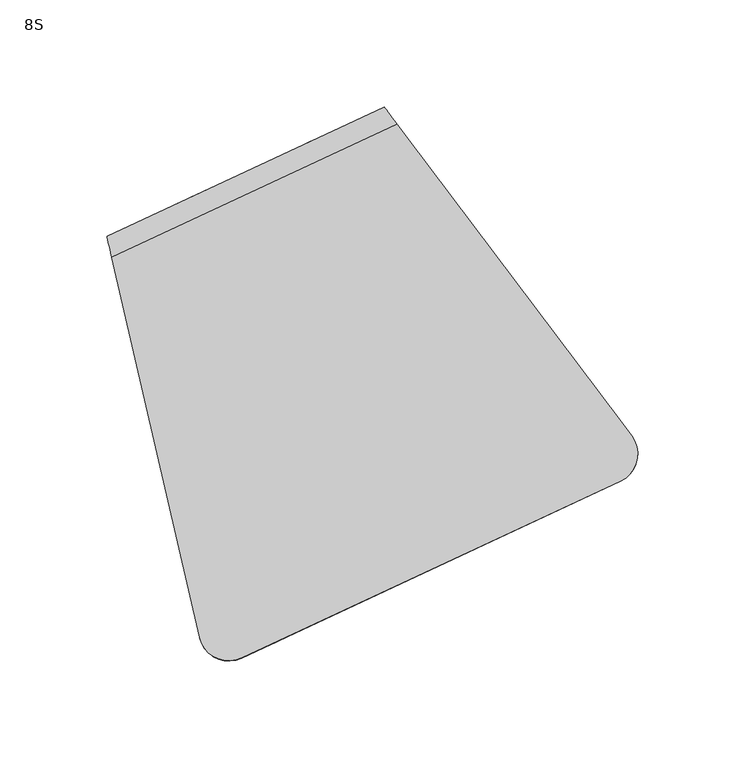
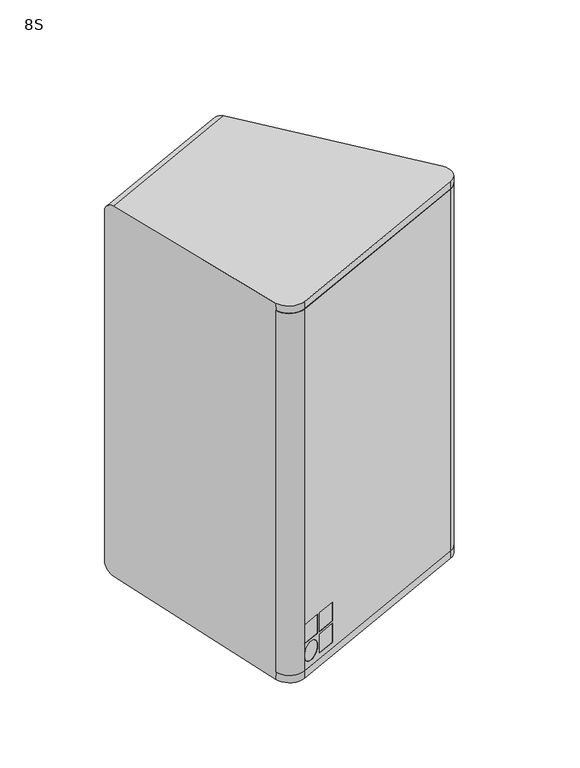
"""IFC4 building model written with IfcOpenShell, lengths in millimetres: proxy geometry, d&b xS-Series 8S Point Source : 8S."""

from ifc_helpers import new_model, si_unit, point, frame, frame_2d, origin, place, context, project, spatial, polyline, circle_curve, ellipse_curve, trimmed, segment, composite_curve, outline, extrude, source, transform, mapped, element, save
from ifc_brep_helpers import plane_surface, cylinder_surface, revolved_surface, advanced_brep


def proxy_8s_2740bf52(model_context):
    return source(origin(), model_context, "Body", "SolidModel", [
        extrude(outline(composite_curve([segment(polyline([(-60.1149016, -122.4693124), (132.4466068, -32.6764064)]), True, "CONTINUOUS"), segment(trimmed(circle_curve(frame_2d((125.9583549, -38.9136003)), 9.0), [point((132.4466068, -32.6764064))], [point((129.7619193, -47.0703704))], False, "CARTESIAN"), True, "CONTINUOUS"), segment(polyline([(129.7619193, -47.0703704), (-47.2598462, -129.6169753)]), True, "CONTINUOUS"), segment(trimmed(circle_curve(frame_2d((-51.0979663, -121.3861003)), 9.0817658), [point((-47.2598462, -129.6169753))], [point((-60.1149016, -122.4693124))], False, "CARTESIAN"), True, "CONTINUOUS")], self_intersect=False)), frame((0.0, 0.0, -169.0), z_axis=(0.0, 0.0, 1.0), x_axis=(1.0, 0.0, 0.0)), (0.0, 0.0, 1.0), 338.0),
        advanced_brep(
        [(-29.0144763, -126.6259092, -126.5), (-31.1275676, -122.0943703, -126.5), (-31.1275676, -122.0943703, -144.0), (-29.0144763, -126.6259092, -144.0), (-46.9879539, -129.4901898, -144.0), (-44.8748626, -134.0217288, -144.0), (-46.9879539, -129.4901898, -126.5), (-44.8748626, -134.0217288, -126.5), (-10.8883206, -118.173544, -126.5), (-13.0014119, -113.642005, -126.5), (-13.0014119, -113.642005, -144.0), (-10.8883206, -118.173544, -144.0), (-28.8617982, -121.0378246, -144.0), (-26.7487069, -125.5693635, -144.0), (-28.8617982, -121.0378246, -126.5), (-26.7487069, -125.5693635, -126.5), (-10.8883206, -118.173544, -146.5), (-13.0014119, -113.642005, -146.5), (-13.0014119, -113.642005, -164.0), (-10.8883206, -118.173544, -164.0), (-28.8617982, -121.0378246, -164.0), (-26.7487069, -125.5693635, -164.0), (-28.8617982, -121.0378246, -146.5), (-26.7487069, -125.5693635, -146.5), (-36.9446695, -130.323819, -164.0), (-39.0577608, -125.7922801, -164.0), (-39.0577608, -125.7922801, -146.5), (-36.9446695, -130.323819, -146.5), (132.4466068, -32.6764064, 169.0), (129.7619193, -47.0703704, 169.0), (-47.2598462, -129.6169753, 169.0), (-60.1149016, -122.4693124, 169.0), (-64.7957686, -124.6520366, 169.0), (-45.1467549, -134.1485143, 169.0), (131.8750106, -51.6019093, 169.0), (137.1392521, -30.48819, 169.0), (132.4466068, -32.6764064, -169.0), (137.1392521, -30.48819, -169.0), (131.8750106, -51.6019093, -169.0), (-45.1467549, -134.1485143, -169.0), (-64.7957686, -124.6520366, -169.0), (-60.1149016, -122.4693124, -169.0), (-47.2598462, -129.6169753, -169.0), (129.7619193, -47.0703704, -169.0)],
        [
            (0, 1),
            (1, 2),
            (2, 3),
            (3, 0),
            (2, 4),
            (4, 5),
            (5, 3),
            (4, 6),
            (6, 7),
            (7, 5),
            (0, 7),
            (6, 1),
            (8, 9),
            (9, 10),
            (10, 11),
            (11, 8),
            (10, 12),
            (12, 13),
            (13, 11),
            (12, 14),
            (14, 15),
            (15, 13),
            (8, 15),
            (14, 9),
            (16, 17),
            (17, 18),
            (18, 19),
            (19, 16),
            (18, 20),
            (20, 21),
            (21, 19),
            (20, 22),
            (22, 23),
            (23, 21),
            (16, 23),
            (22, 17),
            (24, 25),
            (25, 26, circle_curve(frame((-39.0577608, -125.7922801, -155.25), z_axis=(-0.4226182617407, 0.9063077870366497, 0.0), x_axis=(0.0, 0.0, 1.0)), 8.75)),
            (26, 27),
            (27, 24, circle_curve(frame((-36.9446695, -130.323819, -155.25), z_axis=(0.4226182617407, -0.9063077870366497, 0.0), x_axis=(0.0, 0.0, 1.0)), 8.75)),
            (24, 27, circle_curve(frame((-36.9446695, -130.323819, -155.25), z_axis=(0.4226182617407, -0.9063077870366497, 0.0), x_axis=(0.0, 0.0, 1.0)), 8.75)),
            (26, 25, circle_curve(frame((-39.0577608, -125.7922801, -155.25), z_axis=(-0.4226182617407, 0.9063077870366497, 0.0), x_axis=(0.0, 0.0, 1.0)), 8.75)),
            (28, 29, circle_curve(frame((125.9583549, -38.9136003, 169.0), z_axis=(0.0, 0.0, -1.0), x_axis=(0.4226182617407, -0.9063077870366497, 0.0)), 9.0)),
            (29, 30),
            (30, 31, circle_curve(frame((-51.0979663, -121.3861003, 169.0), z_axis=(0.0, 0.0, -1.0), x_axis=(0.4226182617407, -0.9063077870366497, 0.0)), 9.0817658)),
            (31, 32),
            (32, 33, circle_curve(frame((-51.0979663, -121.3861003, 169.0), z_axis=(0.0, 0.0, 1.0), x_axis=(0.4226182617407, -0.9063077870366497, 0.0)), 14.0817658)),
            (33, 34),
            (34, 35, circle_curve(frame((125.9583549, -38.9136003, 169.0), z_axis=(0.0, 0.0, 1.0), x_axis=(0.4226182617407, -0.9063077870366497, 0.0)), 14.0)),
            (35, 28),
            (36, 37),
            (37, 38, circle_curve(frame((125.9583549, -38.9136003, -169.0), z_axis=(0.0, 0.0, -1.0), x_axis=(0.4226182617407, -0.9063077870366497, 0.0)), 14.0)),
            (38, 39),
            (39, 40, circle_curve(frame((-51.0979663, -121.3861003, -169.0), z_axis=(0.0, 0.0, -1.0), x_axis=(0.4226182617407, -0.9063077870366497, 0.0)), 14.0817658)),
            (40, 41),
            (41, 42, circle_curve(frame((-51.0979663, -121.3861003, -169.0), z_axis=(0.0, 0.0, 1.0), x_axis=(0.4226182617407, -0.9063077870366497, 0.0)), 9.0817658)),
            (42, 43),
            (43, 36, circle_curve(frame((125.9583549, -38.9136003, -169.0), z_axis=(0.0, 0.0, 1.0), x_axis=(0.4226182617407, -0.9063077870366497, 0.0)), 9.0)),
            (28, 36),
            (43, 29),
            (42, 30),
            (41, 31),
            (40, 32),
            (39, 33),
            (38, 34),
            (37, 35),
        ],
        [
            plane_surface(frame((-29.0144763, -126.6259092, -144.0), z_axis=(-0.9063077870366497, -0.4226182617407, 0.0), x_axis=(-0.4226182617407, 0.9063077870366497, 0.0))),
            plane_surface(frame((-44.8748626, -134.0217288, -144.0), z_axis=(0.0, 0.0, 1.0), x_axis=(-0.4226182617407, 0.9063077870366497, 0.0))),
            plane_surface(frame((-44.8748626, -134.0217288, -126.5), z_axis=(0.9063077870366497, 0.4226182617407, 0.0), x_axis=(-0.4226182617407, 0.9063077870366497, 0.0))),
            plane_surface(frame((-29.0144763, -126.6259092, -126.5), z_axis=(0.0, 0.0, -1.0), x_axis=(-0.4226182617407, 0.9063077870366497, 0.0))),
            plane_surface(frame((-10.8883206, -118.173544, -144.0), z_axis=(-0.9063077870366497, -0.4226182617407, 0.0), x_axis=(-0.4226182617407, 0.9063077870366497, 0.0))),
            plane_surface(frame((-26.7487069, -125.5693635, -144.0), z_axis=(0.0, 0.0, 1.0), x_axis=(-0.4226182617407, 0.9063077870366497, 0.0))),
            plane_surface(frame((-26.7487069, -125.5693635, -126.5), z_axis=(0.9063077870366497, 0.4226182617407, 0.0), x_axis=(-0.4226182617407, 0.9063077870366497, 0.0))),
            plane_surface(frame((-10.8883206, -118.173544, -126.5), z_axis=(0.0, 0.0, -1.0), x_axis=(-0.4226182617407, 0.9063077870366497, 0.0))),
            plane_surface(frame((-10.8883206, -118.173544, -164.0), z_axis=(-0.9063077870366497, -0.4226182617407, 0.0), x_axis=(-0.4226182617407, 0.9063077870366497, 0.0))),
            plane_surface(frame((-26.7487069, -125.5693635, -164.0), z_axis=(0.0, 0.0, 1.0), x_axis=(-0.4226182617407, 0.9063077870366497, 0.0))),
            plane_surface(frame((-26.7487069, -125.5693635, -146.5), z_axis=(0.9063077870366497, 0.4226182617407, 0.0), x_axis=(-0.4226182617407, 0.9063077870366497, 0.0))),
            plane_surface(frame((-10.8883206, -118.173544, -146.5), z_axis=(0.0, 0.0, -1.0), x_axis=(-0.4226182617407, 0.9063077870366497, 0.0))),
            revolved_surface(polyline([(-36.944669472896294, -130.32381898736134, -146.5), (-39.05776076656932, -125.79228008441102, -146.5)]), (-20.1465621, -166.3474765, -155.25), (0.4226182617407, -0.9063077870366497, 0.0)),
            plane_surface(frame((129.7619193, -47.0703704, 169.0), z_axis=(0.0, 0.0, 1.0), x_axis=(-0.9063077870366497, -0.4226182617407, 0.0))),
            plane_surface(frame((129.7619193, -47.0703704, -169.0), z_axis=(0.0, 0.0, -1.0), x_axis=(0.9063077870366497, 0.4226182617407, 0.0))),
            revolved_surface(polyline([(129.7619192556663, -47.070370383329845, -169.0), (129.7619192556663, -47.070370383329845, 169.0)]), (125.9583549, -38.9136003, -169.0), (0.0, 0.0, -1.0)),
            plane_surface(frame((129.7619193, -47.0703704, 169.0), z_axis=(-0.42261826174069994, 0.9063077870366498, 0.0), x_axis=(0.0, 0.0, -1.0))),
            revolved_surface(polyline([(-47.259846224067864, -129.6169753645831, -169.0), (-47.259846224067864, -129.6169753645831, 169.0)]), (-51.0979663, -121.3861003, -169.0), (0.0, 0.0, -1.0)),
            plane_surface(frame((-60.1149016, -122.4693124, 169.0), z_axis=(-0.42261826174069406, 0.9063077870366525, 0.0), x_axis=(0.0, 0.0, -1.0))),
            cylinder_surface(frame((-51.0979663, -121.3861003, -169.0), z_axis=(0.0, 0.0, 1.0), x_axis=(0.4226182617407, -0.9063077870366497, 0.0)), 14.0817658),
            plane_surface(frame((-45.1467549, -134.1485143, 169.0), z_axis=(0.4226182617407, -0.9063077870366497, 0.0), x_axis=(0.0, 0.0, -1.0))),
            cylinder_surface(frame((125.9583549, -38.9136003, -169.0), z_axis=(0.0, 0.0, 1.0), x_axis=(0.4226182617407, -0.9063077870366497, 0.0)), 14.0),
            plane_surface(frame((137.1392521, -30.48819, 169.0), z_axis=(-0.4226182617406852, 0.9063077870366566, 0.0), x_axis=(0.0, 0.0, -1.0))),
        ],
        [
            (0, [[1, 2, 3, 4]]),
            (1, [[-3, 5, 6, 7]]),
            (2, [[-6, 8, 9, 10]]),
            (3, [[-1, 11, -9, 12]]),
            (4, [[13, 14, 15, 16]]),
            (5, [[-15, 17, 18, 19]]),
            (6, [[-18, 20, 21, 22]]),
            (7, [[-13, 23, -21, 24]]),
            (8, [[25, 26, 27, 28]]),
            (9, [[-27, 29, 30, 31]]),
            (10, [[-30, 32, 33, 34]]),
            (11, [[-25, 35, -33, 36]]),
            (12, [[37, 38, 39, 40]]),
            (12, [[-37, 41, -39, 42]]),
            (13, [[43, 44, 45, 46, 47, 48, 49, 50]]),
            (14, [[51, 52, 53, 54, 55, 56, 57, 58]]),
            (15, [[-43, 59, -58, 60]]),
            (16, [[-44, -60, -57, 61], [-2, -12, -8, -5], [-14, -24, -20, -17], [-26, -36, -32, -29], [-38, -42]]),
            (17, [[-45, -61, -56, 62]]),
            (18, [[-46, -62, -55, 63]]),
            (19, [[-47, -63, -54, 64]]),
            (20, [[-48, -64, -53, 65], [-4, -7, -10, -11], [-16, -19, -22, -23], [-28, -31, -34, -35], [-40, -41]]),
            (21, [[-49, -65, -52, 66]]),
            (22, [[-50, -66, -51, -59]]),
        ],
    ),
        extrude(outline(polyline([(-10.8883206, -118.173544), (-26.7487069, -125.5693635), (-28.8617982, -121.0378246), (-13.0014119, -113.642005), (-10.8883206, -118.173544)])), frame((0.0, 0.0, -144.0), z_axis=(0.0, 0.0, 1.0), x_axis=(1.0, 0.0, 0.0)), (0.0, 0.0, 1.0), 17.5),
        extrude(outline(polyline([(-29.0144763, -126.6259092), (-44.8748626, -134.0217288), (-46.9879539, -129.4901898), (-31.1275676, -122.0943703), (-29.0144763, -126.6259092)])), frame((0.0, 0.0, -144.0), z_axis=(0.0, 0.0, 1.0), x_axis=(1.0, 0.0, 0.0)), (0.0, 0.0, 1.0), 17.5),
        extrude(outline(composite_curve([segment(trimmed(circle_curve(frame_2d((28.75, 11.25)), 8.75), [point((37.5, 11.25))], [point((20.0, 11.25))], False, "CARTESIAN"), True, "CONTINUOUS"), segment(trimmed(circle_curve(frame_2d((28.75, 11.25)), 8.75), [point((20.0, 11.25))], [point((37.5, 11.25))], False, "CARTESIAN"), True, "CONTINUOUS")], self_intersect=False)), frame((-26.7487069, -125.5693635, -126.5), z_axis=(-0.4226182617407, 0.9063077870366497, 0.0), x_axis=(0.0, 0.0, -1.0)), (0.0, 0.0, 1.0), 5.0),
        extrude(outline(polyline([(-10.8883206, -118.173544), (-26.7487069, -125.5693635), (-28.8617982, -121.0378246), (-13.0014119, -113.642005), (-10.8883206, -118.173544)])), frame((0.0, 0.0, -164.0), z_axis=(0.0, 0.0, 1.0), x_axis=(1.0, 0.0, 0.0)), (0.0, 0.0, 1.0), 17.5),
        advanced_brep(
        [(-73.7712896, 75.3859856, 130.0), (-65.6145195, 79.18955, 139.0), (-18.4865146, 101.1656996, 139.0), (-10.3297445, 104.969264, 130.0), (-10.3297445, 104.969264, 36.0), (-18.4865146, 101.1656996, 27.0), (-65.6145195, 79.18955, 27.0), (-73.7712896, 75.3859856, 36.0), (-65.5869062, 79.2024263, 45.508784), (-54.7112128, 84.2738454, 33.508784), (-29.3898213, 96.0814042, 33.508784), (-18.5141279, 101.1528233, 45.508784), (-18.5141279, 101.1528233, 95.9695321), (-29.3898213, 96.0814042, 107.9695321), (-54.7112128, 84.2738454, 107.9695321), (-65.5869062, 79.2024263, 95.9695321), (-75.0391444, 78.104909, 130.0), (-66.8823743, 81.9084734, 139.0), (-19.7543694, 103.884623, 139.0), (-11.5975993, 107.6881873, 130.0), (-11.5975993, 107.6881873, 36.0), (-19.7543694, 103.884623, 27.0), (-66.8823743, 81.9084734, 27.0), (-75.0391444, 78.104909, 36.0), (-47.9493206, 69.7729208, 33.508784), (-58.825014, 64.7015017, 45.508784), (-58.825014, 64.7015017, 95.9695321), (-47.9493206, 69.7729208, 107.9695321), (-22.6279291, 81.5804796, 107.9695321), (-11.7522357, 86.6518987, 95.9695321), (-11.7522357, 86.6518987, 45.508784), (-22.6279291, 81.5804796, 33.508784), (137.1392521, -30.48819, 169.0), (131.8750106, -51.6019093, 169.0), (-45.1467549, -134.1485143, 169.0), (-64.7957686, -124.6520366, 169.0), (-64.7957686, -124.6520366, -169.0), (-45.1467549, -134.1485143, -169.0), (131.8750106, -51.6019093, -169.0), (137.1392521, -30.48819, -169.0), (-64.8188174, -124.5538083, 175.729115), (-105.7890799, 52.9078954, 172.8919941), (-108.0522256, 62.7106564, 162.8932619), (-108.0522256, 62.7106564, -162.8932619), (-105.7890799, 52.9078954, -172.8919941), (-64.8188174, -124.5538083, -175.729115), (21.4154819, 123.0824399, 162.8932619), (21.4154819, 123.0824399, -162.8932619), (137.1392521, -30.48819, -175.7306878), (27.4701105, 115.0476764, -172.8919941), (27.4701105, 115.0476764, 172.8919941), (137.1392521, -30.48819, 175.7306878), (-45.1467549, -134.1485143, 176.0), (131.8750106, -51.6019093, 176.0), (-45.1467549, -134.1485143, -176.0), (131.8750106, -51.6019093, -176.0)],
        [
            (0, 1, circle_curve(frame((-65.6145195, 79.18955, 130.0), z_axis=(-0.42261826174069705, 0.906307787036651, 0.0), x_axis=(-0.906307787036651, -0.42261826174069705, 0.0)), 9.0)),
            (1, 2),
            (2, 3, circle_curve(frame((-18.4865146, 101.1656996, 130.0), z_axis=(-0.42261826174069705, 0.906307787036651, 0.0), x_axis=(-0.906307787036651, -0.42261826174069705, 0.0)), 9.0)),
            (3, 4),
            (4, 5, circle_curve(frame((-18.4865146, 101.1656996, 36.0), z_axis=(-0.42261826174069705, 0.906307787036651, 0.0), x_axis=(-0.906307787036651, -0.42261826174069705, 0.0)), 9.0)),
            (5, 6),
            (6, 7, circle_curve(frame((-65.6145195, 79.18955, 36.0), z_axis=(-0.42261826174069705, 0.906307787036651, 0.0), x_axis=(-0.906307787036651, -0.42261826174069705, 0.0)), 9.0)),
            (7, 0),
            (8, 9, circle_curve(frame((-54.7112128, 84.2738454, 45.508784), z_axis=(0.42261826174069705, -0.906307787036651, 0.0), x_axis=(-0.906307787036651, -0.42261826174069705, 0.0)), 12.0)),
            (9, 10),
            (10, 11, circle_curve(frame((-29.3898213, 96.0814042, 45.508784), z_axis=(0.42261826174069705, -0.906307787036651, 0.0), x_axis=(-0.906307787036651, -0.42261826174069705, 0.0)), 12.0)),
            (11, 12),
            (12, 13, circle_curve(frame((-29.3898213, 96.0814042, 95.9695321), z_axis=(0.42261826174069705, -0.906307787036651, 0.0), x_axis=(-0.906307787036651, -0.42261826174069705, 0.0)), 12.0)),
            (13, 14),
            (14, 15, circle_curve(frame((-54.7112128, 84.2738454, 95.9695321), z_axis=(0.42261826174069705, -0.906307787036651, 0.0), x_axis=(-0.906307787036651, -0.42261826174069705, 0.0)), 12.0)),
            (15, 8),
            (0, 16),
            (16, 17, circle_curve(frame((-66.8823743, 81.9084734, 130.0), z_axis=(-0.42261826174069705, 0.906307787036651, 0.0), x_axis=(-0.906307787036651, -0.42261826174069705, 0.0)), 9.0)),
            (17, 1),
            (17, 18),
            (18, 2),
            (18, 19, circle_curve(frame((-19.7543694, 103.884623, 130.0), z_axis=(-0.42261826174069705, 0.906307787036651, 0.0), x_axis=(-0.906307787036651, -0.42261826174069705, 0.0)), 9.0)),
            (19, 3),
            (19, 20),
            (20, 4),
            (20, 21, circle_curve(frame((-19.7543694, 103.884623, 36.0), z_axis=(-0.42261826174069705, 0.906307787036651, 0.0), x_axis=(-0.906307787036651, -0.42261826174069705, 0.0)), 9.0)),
            (21, 5),
            (21, 22),
            (22, 6),
            (22, 23, circle_curve(frame((-66.8823743, 81.9084734, 36.0), z_axis=(-0.42261826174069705, 0.906307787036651, 0.0), x_axis=(-0.906307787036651, -0.42261826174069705, 0.0)), 9.0)),
            (23, 7),
            (23, 16),
            (24, 25, circle_curve(frame((-47.9493206, 69.7729208, 45.508784), z_axis=(-0.42261826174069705, 0.906307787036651, 0.0), x_axis=(-0.906307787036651, -0.42261826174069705, 0.0)), 12.0)),
            (25, 26),
            (26, 27, circle_curve(frame((-47.9493206, 69.7729208, 95.9695321), z_axis=(-0.42261826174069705, 0.906307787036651, 0.0), x_axis=(-0.906307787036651, -0.42261826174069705, 0.0)), 12.0)),
            (27, 28),
            (28, 29, circle_curve(frame((-22.6279291, 81.5804796, 95.9695321), z_axis=(-0.42261826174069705, 0.906307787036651, 0.0), x_axis=(-0.906307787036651, -0.42261826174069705, 0.0)), 12.0)),
            (29, 30),
            (30, 31, circle_curve(frame((-22.6279291, 81.5804796, 45.508784), z_axis=(-0.42261826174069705, 0.906307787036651, 0.0), x_axis=(-0.906307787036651, -0.42261826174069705, 0.0)), 12.0)),
            (31, 24),
            (32, 33, circle_curve(frame((125.9583549, -38.9136003, 169.0), z_axis=(0.0, 0.0, -1.0), x_axis=(0.4226182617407, -0.9063077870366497, 0.0)), 14.0)),
            (33, 34),
            (34, 35, circle_curve(frame((-51.0979663, -121.3861003, 169.0), z_axis=(0.0, 0.0, -1.0), x_axis=(0.4226182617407, -0.9063077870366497, 0.0)), 14.0817658)),
            (35, 32),
            (36, 37, circle_curve(frame((-51.0979663, -121.3861003, -169.0), z_axis=(0.0, 0.0, 1.0), x_axis=(0.4226182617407, -0.9063077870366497, 0.0)), 14.0817658)),
            (37, 38),
            (38, 39, circle_curve(frame((125.9583549, -38.9136003, -169.0), z_axis=(0.0, 0.0, 1.0), x_axis=(0.4226182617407, -0.9063077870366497, 0.0)), 14.0)),
            (39, 36),
            (24, 9),
            (8, 25),
            (15, 26),
            (14, 27),
            (13, 28),
            (12, 29),
            (11, 30),
            (10, 31),
            (36, 35),
            (35, 40),
            (40, 41),
            (41, 42, ellipse_curve(frame((-105.7524596, 52.7492757, 162.8932619), z_axis=(-0.9743700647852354, -0.22495105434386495, 0.0), x_axis=(0.22495105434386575, -0.9743700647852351, 0.0)), 10.2234059, 10.0)),
            (42, 43),
            (43, 44, ellipse_curve(frame((-105.7524596, 52.7492757, -162.8932619), z_axis=(-0.9743700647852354, -0.22495105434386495, 0.0), x_axis=(0.22495105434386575, -0.9743700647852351, 0.0)), 10.2234059, 10.0)),
            (44, 45),
            (45, 36),
            (42, 46),
            (46, 47),
            (47, 43),
            (32, 39),
            (39, 48),
            (48, 49),
            (49, 47, ellipse_curve(frame((27.5680812, 114.9176649, -162.8932619), z_axis=(0.798635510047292, 0.6018150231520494, 0.0), x_axis=(-0.6018150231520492, 0.7986355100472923, 0.0)), 10.2234059, 10.0)),
            (46, 50, ellipse_curve(frame((27.5680812, 114.9176649, 162.8932619), z_axis=(0.798635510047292, 0.6018150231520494, 0.0), x_axis=(-0.6018150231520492, 0.7986355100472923, 0.0)), 10.2234059, 10.0)),
            (50, 51),
            (51, 32),
            (34, 52),
            (52, 40, ellipse_curve(frame((-51.0979663, -121.3861003, 175.775741), z_axis=(0.006729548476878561, -0.01443156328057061, -0.9998732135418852), x_axis=(0.42256467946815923, -0.9061928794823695, 0.015923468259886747)), 14.0835514, 14.0817658)),
            (33, 53),
            (53, 52),
            (51, 53, ellipse_curve(frame((125.9583549, -38.9136003, 175.7770432), z_axis=(0.006729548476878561, -0.01443156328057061, -0.9998732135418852), x_axis=(0.42256467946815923, -0.9061928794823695, 0.015923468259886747)), 14.0017752, 14.0)),
            (45, 54, ellipse_curve(frame((-51.0979663, -121.3861003, -175.775741), z_axis=(0.006729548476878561, -0.01443156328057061, 0.9998732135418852), x_axis=(-0.42256467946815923, 0.9061928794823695, 0.015923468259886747)), 14.0835514, 14.0817658)),
            (54, 37),
            (54, 55),
            (55, 38),
            (55, 48, ellipse_curve(frame((125.9583549, -38.9136003, -175.7770432), z_axis=(0.006729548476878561, -0.01443156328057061, 0.9998732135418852), x_axis=(-0.42256467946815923, 0.9061928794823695, 0.015923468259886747)), 14.0017752, 14.0)),
            (49, 44),
            (50, 41),
        ],
        [
            plane_surface(frame((-73.7712896, 75.3859856, 130.0), z_axis=(-0.42261826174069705, 0.906307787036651, 0.0), x_axis=(0.0, 0.0, -1.0))),
            revolved_surface(polyline([(-75.03914438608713, 78.104909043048, 130.0), (-73.77128956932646, 75.38598561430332, 130.0)]), (-65.6145195, 79.18955, 130.0), (-0.42261826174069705, 0.906307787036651, 0.0)),
            plane_surface(frame((-66.8823743, 81.9084734, 139.0), z_axis=(0.0, 0.0, -1.0), x_axis=(0.4226182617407, -0.9063077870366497, 0.0))),
            revolved_surface(polyline([(-27.911139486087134, 100.081058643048, 130.0), (-26.64328468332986, 97.36213524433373, 130.0)]), (-18.4865146, 101.1656996, 130.0), (-0.42261826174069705, 0.906307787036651, 0.0)),
            plane_surface(frame((-11.5975993, 107.6881873, 130.0), z_axis=(-0.9063077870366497, -0.4226182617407, 0.0), x_axis=(0.4226182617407, -0.9063077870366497, 0.0))),
            revolved_surface(polyline([(-27.911139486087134, 100.081058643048, 36.0), (-26.64328468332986, 97.36213524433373, 36.0)]), (-18.4865146, 101.1656996, 36.0), (-0.42261826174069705, 0.906307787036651, 0.0)),
            plane_surface(frame((-19.7543694, 103.884623, 27.0), z_axis=(0.0, 0.0, 1.0), x_axis=(0.4226182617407, -0.9063077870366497, 0.0))),
            revolved_surface(polyline([(-75.03914438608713, 78.104909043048, 36.0), (-73.77128956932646, 75.38598561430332, 36.0)]), (-65.6145195, 79.18955, 36.0), (-0.42261826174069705, 0.906307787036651, 0.0)),
            plane_surface(frame((-75.0391444, 78.104909, 36.0), z_axis=(0.9063077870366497, 0.4226182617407, 0.0), x_axis=(0.4226182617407, -0.9063077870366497, 0.0))),
            plane_surface(frame((-58.825014, 64.7015017, 45.508784), z_axis=(-0.42261826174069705, 0.906307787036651, 0.0), x_axis=(0.0, 0.0, -1.0))),
            plane_surface(frame((-45.1467549, -134.1485143, 169.0), z_axis=(0.0, 0.0, -1.0), x_axis=(-0.9063077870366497, -0.4226182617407, 0.0))),
            plane_surface(frame((-45.1467549, -134.1485143, -169.0), z_axis=(0.0, 0.0, 1.0), x_axis=(0.9063077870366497, 0.4226182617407, 0.0))),
            revolved_surface(polyline([(-65.58690624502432, 79.20242627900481, 45.508784), (-58.82501404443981, 64.70150165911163, 45.508784)]), (-47.9493206, 69.7729208, 45.508784), (-0.42261826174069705, 0.906307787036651, 0.0)),
            plane_surface(frame((-66.854761, 81.9213496, 45.508784), z_axis=(0.9063077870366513, 0.4226182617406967, 0.0), x_axis=(0.4226182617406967, -0.9063077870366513, 0.0))),
            revolved_surface(polyline([(-65.58690624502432, 79.20242627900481, 95.9695321), (-58.82501404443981, 64.70150165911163, 95.9695321)]), (-47.9493206, 69.7729208, 95.9695321), (-0.42261826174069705, 0.906307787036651, 0.0)),
            plane_surface(frame((-55.9790676, 86.9927688, 107.9695321), z_axis=(0.0, 0.0, -1.0), x_axis=(0.4226182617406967, -0.9063077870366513, 0.0))),
            revolved_surface(polyline([(-40.26551473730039, 91.00998506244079, 95.9695321), (-33.50362253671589, 76.50906044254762, 95.9695321)]), (-22.6279291, 81.5804796, 95.9695321), (-0.42261826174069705, 0.906307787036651, 0.0)),
            plane_surface(frame((-19.7819826, 103.8717467, 95.9695321), z_axis=(-0.9063077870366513, -0.4226182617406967, 0.0), x_axis=(0.4226182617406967, -0.9063077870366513, 0.0))),
            revolved_surface(polyline([(-40.26551473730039, 91.00998506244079, 45.508784), (-33.50362253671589, 76.50906044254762, 45.508784)]), (-22.6279291, 81.5804796, 45.508784), (-0.42261826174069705, 0.906307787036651, 0.0)),
            plane_surface(frame((-30.6576761, 98.8003276, 33.508784), z_axis=(0.0, 0.0, 1.0), x_axis=(0.4226182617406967, -0.9063077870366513, 0.0))),
            plane_surface(frame((-64.7961035, -124.6521928, -176.0), z_axis=(-0.9743700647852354, -0.22495105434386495, 0.0), x_axis=(0.0, 0.0, 1.0))),
            plane_surface(frame((-108.0522256, 62.7106564, -176.0), z_axis=(-0.4226182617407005, 0.9063077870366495, 0.0), x_axis=(0.0, 0.0, 1.0))),
            plane_surface(frame((21.4154819, 123.0824399, -176.0), z_axis=(0.798635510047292, 0.6018150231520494, 0.0), x_axis=(0.0, 0.0, 1.0))),
            plane_surface(frame((137.1392521, -30.48819, -176.0), z_axis=(0.42261826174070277, -0.9063077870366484, 0.0), x_axis=(0.0, 0.0, 1.0))),
            cylinder_surface(frame((-51.0979663, -121.3861003, 169.0), z_axis=(0.0, 0.0, 1.0), x_axis=(0.4226182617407, -0.9063077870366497, 0.0)), 14.0817658),
            plane_surface(frame((-45.1467549, -134.1485143, 176.0), z_axis=(0.4226182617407, -0.9063077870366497, 0.0), x_axis=(0.0, 0.0, -1.0))),
            cylinder_surface(frame((125.9583549, -38.9136003, 169.0), z_axis=(0.0, 0.0, 1.0), x_axis=(0.4226182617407, -0.9063077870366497, 0.0)), 14.0),
            cylinder_surface(frame((-51.0979663, -121.3861003, -176.0), z_axis=(0.0, 0.0, 1.0), x_axis=(0.4226182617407, -0.9063077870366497, 0.0)), 14.0817658),
            plane_surface(frame((-45.1467549, -134.1485143, -169.0), z_axis=(0.4226182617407, -0.9063077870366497, 0.0), x_axis=(0.0, 0.0, -1.0))),
            cylinder_surface(frame((125.9583549, -38.9136003, -176.0), z_axis=(0.0, 0.0, 1.0), x_axis=(0.4226182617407, -0.9063077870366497, 0.0)), 14.0),
            cylinder_surface(frame((-147.8491237, 33.1192789, -162.8932619), z_axis=(-0.9063077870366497, -0.4226182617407, 0.0), x_axis=(-0.4226182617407, 0.9063077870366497, 0.0)), 10.0),
            plane_surface(frame((69.5974497, 134.6919773, -172.8919941), z_axis=(-0.006729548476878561, 0.01443156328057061, -0.9998732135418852), x_axis=(-0.9063077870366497, -0.4226182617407, 0.0))),
            plane_surface(frame((152.0753063, -42.1823568, 176.0), z_axis=(-0.006729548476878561, 0.01443156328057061, 0.9998732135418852), x_axis=(-0.9063077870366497, -0.4226182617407, 0.0))),
            cylinder_surface(frame((-39.0921892, 83.8334703, 162.8932619), z_axis=(-0.9063077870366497, -0.4226182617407, 0.0), x_axis=(-0.4226182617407, 0.9063077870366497, 0.0)), 10.0),
        ],
        [
            (0, [[1, 2, 3, 4, 5, 6, 7, 8], [9, 10, 11, 12, 13, 14, 15, 16]]),
            (1, [[-1, 17, 18, 19]]),
            (2, [[-2, -19, 20, 21]]),
            (3, [[-3, -21, 22, 23]]),
            (4, [[-4, -23, 24, 25]]),
            (5, [[-5, -25, 26, 27]]),
            (6, [[-6, -27, 28, 29]]),
            (7, [[-7, -29, 30, 31]]),
            (8, [[-8, -31, 32, -17]]),
            (9, [[33, 34, 35, 36, 37, 38, 39, 40]]),
            (10, [[41, 42, 43, 44]]),
            (11, [[45, 46, 47, 48]]),
            (12, [[-33, 49, -9, 50]]),
            (13, [[-34, -50, -16, 51]]),
            (14, [[-35, -51, -15, 52]]),
            (15, [[-36, -52, -14, 53]]),
            (16, [[-37, -53, -13, 54]]),
            (17, [[-38, -54, -12, 55]]),
            (18, [[-39, -55, -11, 56]]),
            (19, [[-40, -56, -10, -49]]),
            (20, [[57, 58, 59, 60, 61, 62, 63, 64]]),
            (21, [[-61, 65, 66, 67], [-18, -32, -30, -28, -26, -24, -22, -20]]),
            (22, [[68, 69, 70, 71, -66, 72, 73, 74]]),
            (23, [[-44, -57, -48, -68]]),
            (24, [[-43, 75, 76, -58]]),
            (25, [[-42, 77, 78, -75]]),
            (26, [[-41, -74, 79, -77]]),
            (27, [[-45, -64, 80, 81]]),
            (28, [[-46, -81, 82, 83]]),
            (29, [[-47, -83, 84, -69]]),
            (30, [[85, -62, -67, -71]]),
            (31, [[-85, -70, -84, -82, -80, -63]]),
            (32, [[86, -59, -76, -78, -79, -73]]),
            (33, [[-86, -72, -65, -60]]),
        ],
    ),
    ])


if __name__ == "__main__":
    model = new_model("IFC4")
    model_context = context("Model", 3, world=origin())
    ifc_project = project(units=[si_unit("LENGTHUNIT", "METRE", prefix="MILLI")], contexts=[model_context])
    site = spatial("IfcSite", under=ifc_project)
    building = spatial("IfcBuilding", under=site)
    placement = place(None, origin())
    proxy_8s_shape = proxy_8s_2740bf52(model_context)
    element("IfcBuildingElementProxy", 1, Name="d&b xS-Series 8S Point Source : 8S", ObjectType="d&b xS-Series 8S Point Source : 8S", at=placement, inside=building, context=model_context, shape_type="MappedRepresentation", body=[
        mapped(proxy_8s_shape, transform((0.0, 0.0, 0.0), x_axis=(1.0, 0.0, 0.0), y_axis=(0.0, 1.0, 0.0), z_axis=(0.0, 0.0, 1.0))),
    ])
    save(model, "model.ifc")
